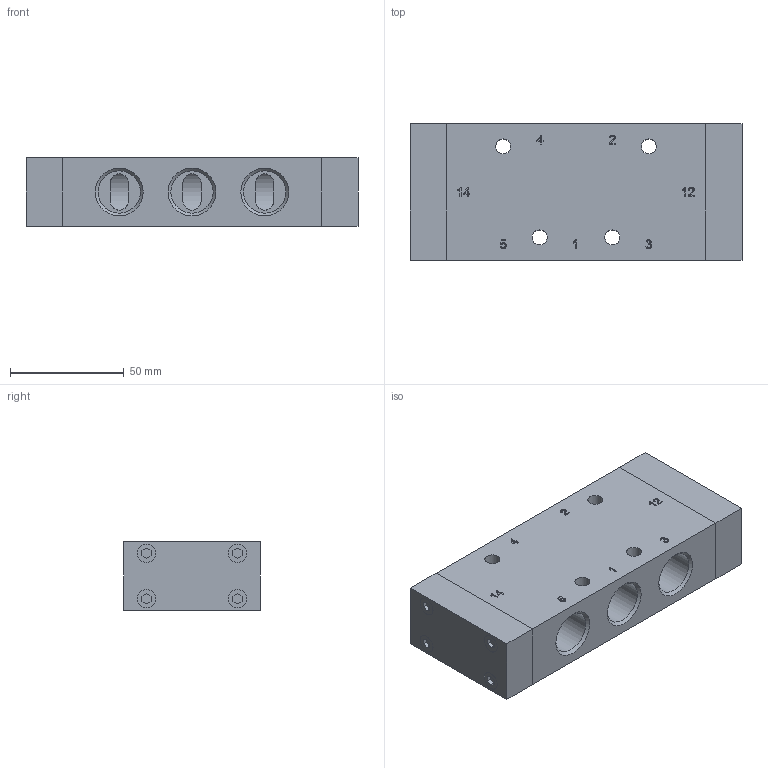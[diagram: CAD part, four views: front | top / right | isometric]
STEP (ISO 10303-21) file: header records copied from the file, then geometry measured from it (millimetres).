
FILE_DESCRIPTION(/* description */ ('Unknown','CAx-IF Rec.Pracs.---Representation and Presentation of Product Manufacturing Information (PMI)---4.0---2014-10-13','CAx-IF Rec.Pracs.---3D Tessellated Geometry---0.4---2014-09-14','2;1'),/* implementation_level */ '2;1');
FILE_NAME(/* name */ 'P 520 121 VES',/* time_stamp */ '2019-08-08T15:21:58+02:00',/* author */ ('Unknown'),/* organization */ ('Unknown'),/* preprocessor_version */ 'ST-DEVELOPER v16.7',/* originating_system */ 'DEX',/* authorisation */ $);
FILE_SCHEMA (('AP242_MANAGED_MODEL_BASED_3D_ENGINEERING_MIM_LF { 1 0 10303 442 20130219 1 4 }'));
Length unit declared in the file: millimetre
Products named in the file (2): P 520 121 VES
Assembly tree (1 placements, depth 2):
  P 520 121 VES
    P 520 121 VES
Bounding box: 146 x 60 x 30 mm (x, y, z)
Volume: 187942.2 mm3; surface area: 52427.4 mm2
Topology: 3 solids, 3 shells, 423 faces, 1098 edges, 724 vertices
Faces by surface type: plane 245, cylinder 75, bspline 72, cone 31
Full cylindrical faces by diameter (mm): 4.134 x16, 6.6 x4, 8 x8, 8.566 x4, 12 x2, 18.631 x10, 22 x3, 22.4 x4
Entity records: 16064 total; most frequent: CARTESIAN_POINT 3663, ORIENTED_EDGE 1936, DIRECTION 1666, EDGE_CURVE 968, VERTEX_POINT 688, LINE 656, VECTOR 656, FACE_BOUND 580
